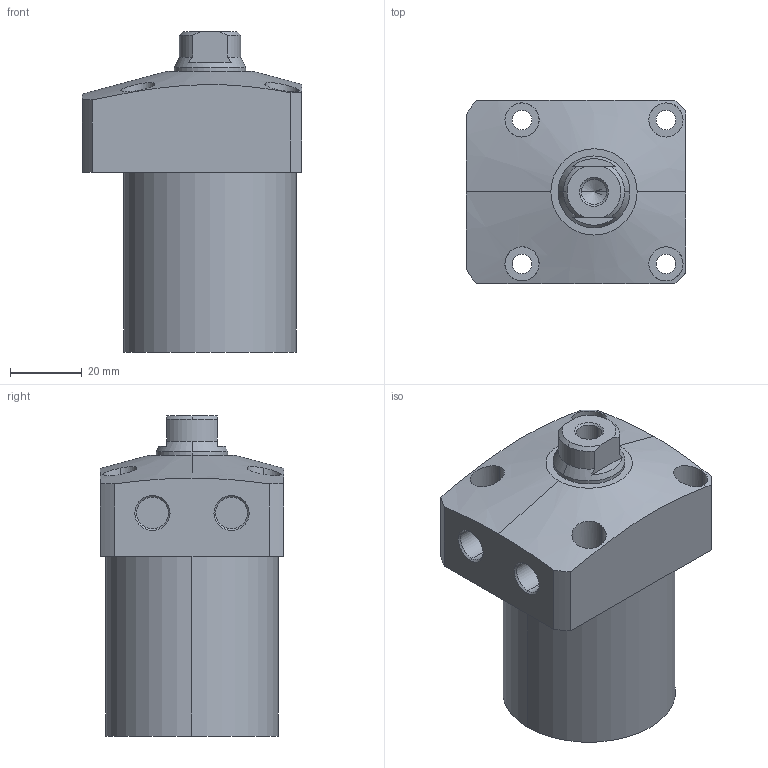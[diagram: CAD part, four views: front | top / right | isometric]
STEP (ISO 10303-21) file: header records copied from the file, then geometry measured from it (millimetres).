
FILE_DESCRIPTION (( 'STEP AP203' ), '1' );
FILE_NAME ('CLL-0480-CA-40.STEP', '2017-05-09T02:24:42', ( '' ), ( '' ), 'SwSTEP 2.0', 'SolidWorks 2015', '' );
FILE_SCHEMA (( 'CONFIG_CONTROL_DESIGN' ));
Length unit declared in the file: millimetre
Products named in the file (1): CLL-0480-CA-40
Bounding box: 61 x 51 x 89 mm (x, y, z)
Volume: 165082.6 mm3; surface area: 22104.6 mm2
Topology: 1 solids, 1 shells, 72 faces, 169 edges, 108 vertices
Faces by surface type: cylinder 35, plane 22, cone 15
Entity records: 2479 total; most frequent: CARTESIAN_POINT 714, DIRECTION 366, ORIENTED_EDGE 334, EDGE_CURVE 167, AXIS2_PLACEMENT_3D 150, VERTEX_POINT 108, EDGE_LOOP 91, CIRCLE 77
